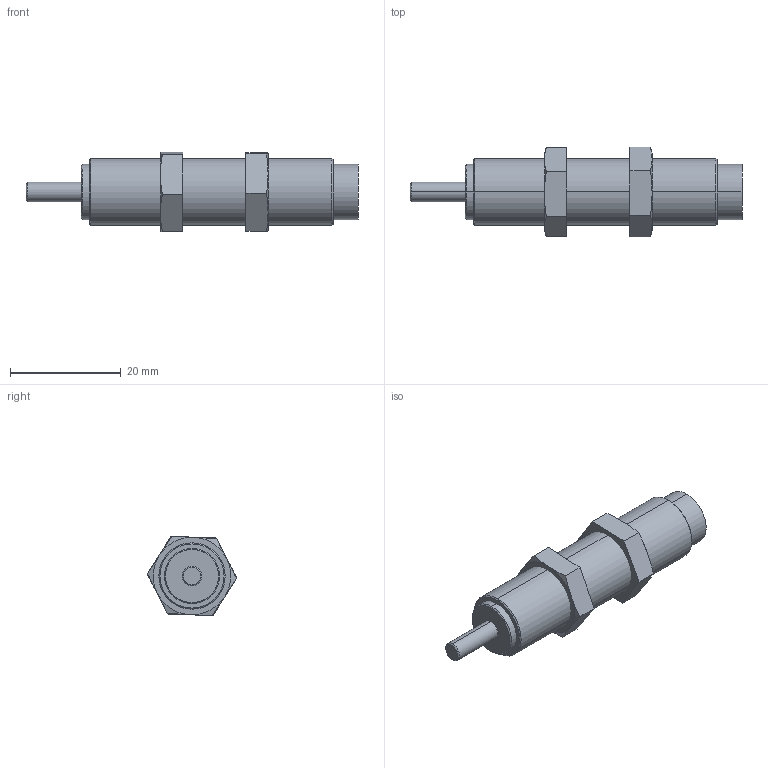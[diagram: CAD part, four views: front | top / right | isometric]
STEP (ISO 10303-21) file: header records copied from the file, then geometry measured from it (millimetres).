
FILE_DESCRIPTION (( 'STEP AP203' ), '1' );
FILE_NAME ('FSA-1210AA.STEP', '2016-03-17T07:43:32', ( 'Sam Lin' ), ( '' ), 'SwSTEP 2.0', 'SolidWorks 2013', '' );
FILE_SCHEMA (( 'CONFIG_CONTROL_DESIGN' ));
Length unit declared in the file: metre
Products named in the file (3): FSA-1210AA_1; M12x1-4mm_1; FSA-1210AA
Assembly tree (3 placements, depth 2):
  FSA-1210AA
    FSA-1210AA_1
    M12x1-4mm_1  x2
Bounding box: 60 x 16.16 x 14.43 mm (x, y, z)
Volume: 6164.3 mm3; surface area: 3133.9 mm2
Topology: 3 solids, 3 shells, 53 faces, 112 edges, 68 vertices
Faces by surface type: plane 21, cylinder 12, bspline 12, cone 8
Entity records: 1409 total; most frequent: CARTESIAN_POINT 333, DIRECTION 160, ORIENTED_EDGE 152, EDGE_CURVE 76, AXIS2_PLACEMENT_3D 65, VERTEX_POINT 46, EDGE_LOOP 42, ADVANCED_FACE 37
